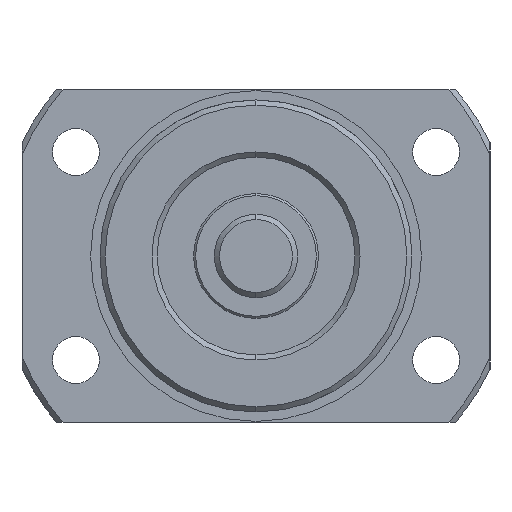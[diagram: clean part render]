
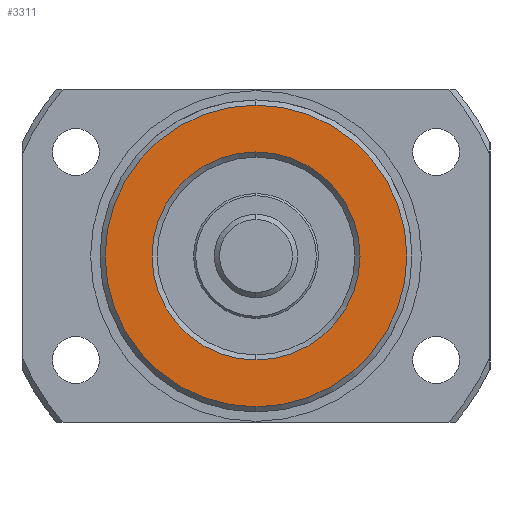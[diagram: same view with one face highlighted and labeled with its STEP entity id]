
A CAD part, left-side view. The second image highlights one B-rep face of the part: STEP entity #3311.
In plain terms, the highlighted planar face has unit normal (-1, 0, 0).
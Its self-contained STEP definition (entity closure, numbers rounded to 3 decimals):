
#56 = EDGE_LOOP ( 'NONE', ( #2745, #2740 ) ) ;
#155 = CARTESIAN_POINT ( 'NONE',  ( -62., 0., -14.5 ) ) ;
#251 = CARTESIAN_POINT ( 'NONE',  ( -62., 0., 10. ) ) ;
#914 = CARTESIAN_POINT ( 'NONE',  ( -62., 0., 0. ) ) ;
#915 = DIRECTION ( 'NONE',  ( -1., 0., 0. ) ) ;
#916 = DIRECTION ( 'NONE',  ( 0., 0., 1. ) ) ;
#1868 = AXIS2_PLACEMENT_3D ( 'NONE', #4191, #4199, #4190 ) ;
#2107 = ORIENTED_EDGE ( 'NONE', *, *, #2142, .T. ) ;
#2142 = EDGE_CURVE ( 'NONE', #2771, #4004, #4918, .T. ) ;
#2300 = AXIS2_PLACEMENT_3D ( 'NONE', #4791, #4815, #4790 ) ;
#2389 = AXIS2_PLACEMENT_3D ( 'NONE', #3722, #3740, #3759 ) ;
#2394 = AXIS2_PLACEMENT_3D ( 'NONE', #5781, #5701, #5767 ) ;
#2438 = CARTESIAN_POINT ( 'NONE',  ( -62., 0., -10. ) ) ;
#2728 = CARTESIAN_POINT ( 'NONE',  ( -62., 0., 14.5 ) ) ;
#2740 = ORIENTED_EDGE ( 'NONE', *, *, #6161, .F. ) ;
#2741 = ORIENTED_EDGE ( 'NONE', *, *, #2978, .T. ) ;
#2745 = ORIENTED_EDGE ( 'NONE', *, *, #2986, .F. ) ;
#2771 = VERTEX_POINT ( 'NONE', #2728 ) ;
#2978 = EDGE_CURVE ( 'NONE', #4004, #2771, #3102, .T. ) ;
#2986 = EDGE_CURVE ( 'NONE', #3995, #4109, #3112, .T. ) ;
#3102 = CIRCLE ( 'NONE', #2389, 14.5 ) ;
#3112 = CIRCLE ( 'NONE', #2394, 10. ) ;
#3205 = FACE_BOUND ( 'NONE', #56, .T. ) ;
#3209 = FACE_OUTER_BOUND ( 'NONE', #4971, .T. ) ;
#3311 = ADVANCED_FACE ( 'NONE', ( #3205, #3209 ), #4195, .F. ) ;
#3722 = CARTESIAN_POINT ( 'NONE',  ( -62., 0., 0. ) ) ;
#3740 = DIRECTION ( 'NONE',  ( -1., 0., 0. ) ) ;
#3759 = DIRECTION ( 'NONE',  ( 0., 0., 1. ) ) ;
#3995 = VERTEX_POINT ( 'NONE', #251 ) ;
#4004 = VERTEX_POINT ( 'NONE', #155 ) ;
#4109 = VERTEX_POINT ( 'NONE', #2438 ) ;
#4190 = DIRECTION ( 'NONE',  ( 0., 0., -1. ) ) ;
#4191 = CARTESIAN_POINT ( 'NONE',  ( -62., 14.5, 0. ) ) ;
#4195 = PLANE ( 'NONE',  #1868 ) ;
#4199 = DIRECTION ( 'NONE',  ( 1., 0., 0. ) ) ;
#4442 = CIRCLE ( 'NONE', #5893, 10. ) ;
#4790 = DIRECTION ( 'NONE',  ( 0., 0., 1. ) ) ;
#4791 = CARTESIAN_POINT ( 'NONE',  ( -62., 0., 0. ) ) ;
#4815 = DIRECTION ( 'NONE',  ( -1., 0., 0. ) ) ;
#4918 = CIRCLE ( 'NONE', #2300, 14.5 ) ;
#4971 = EDGE_LOOP ( 'NONE', ( #2741, #2107 ) ) ;
#5701 = DIRECTION ( 'NONE',  ( -1., 0., 0. ) ) ;
#5767 = DIRECTION ( 'NONE',  ( 0., 0., 1. ) ) ;
#5781 = CARTESIAN_POINT ( 'NONE',  ( -62., 0., 0. ) ) ;
#5893 = AXIS2_PLACEMENT_3D ( 'NONE', #914, #915, #916 ) ;
#6161 = EDGE_CURVE ( 'NONE', #4109, #3995, #4442, .T. ) ;
